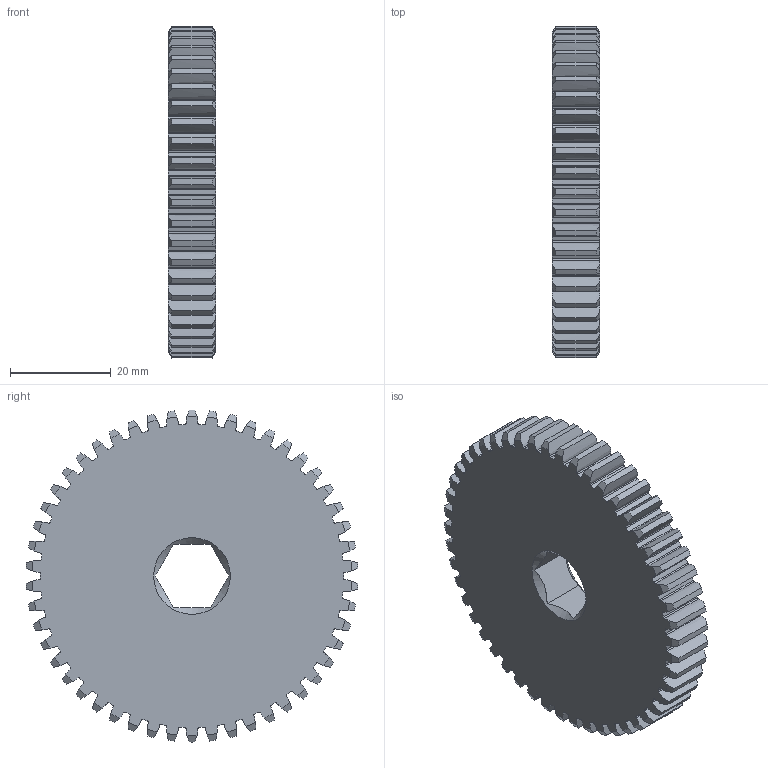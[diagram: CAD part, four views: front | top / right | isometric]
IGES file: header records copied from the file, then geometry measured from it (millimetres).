
Global section: file name: No Iges File Name specified; native system: AutoDesk Inventor R6.0; preprocessor: AutoDesk Inventor Iges Exporter R6.0; author: No Author specified; organization: No Organization specified; date: 20080103.191902; units: inch
Bounding box: 9.53 x 65.97 x 66.04 mm (x, y, z)
Surface area: 10182.9 mm2 (no closed solid volume)
Topology: 0 solids, 0 shells, 410 faces, 2466 edges, 2464 vertices
Faces by surface type: revolution 402, plane 8
